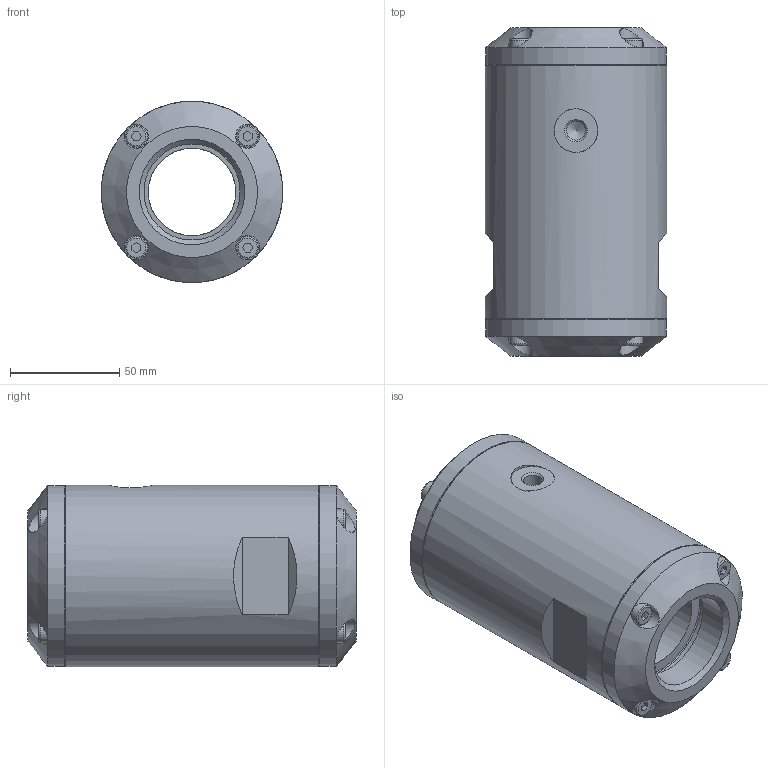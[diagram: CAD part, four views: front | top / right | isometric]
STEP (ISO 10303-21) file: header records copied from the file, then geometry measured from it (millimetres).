
FILE_DESCRIPTION(/* description */ (''),/* implementation_level */ '2;1');
FILE_NAME(/* name */ 'Serie80_QV40_assembly_VEREINFACHT.stp',/* time_stamp */ '2013-10-21T17:30:35+02:00',/* author */ (''),/* organization */ (''),/* preprocessor_version */ 'ST-DEVELOPER v11',/* originating_system */ 'SIEMENS PLM Software NX 7.5',/* authorisation */ '');
FILE_SCHEMA (('AUTOMOTIVE_DESIGN { 1 0 10303 214 1 1 1 1 }'));
Length unit declared in the file: millimetre
Products named in the file (1): memdFD780wkj
Bounding box: 83 x 150 x 83 mm (x, y, z)
Volume: 573639.8 mm3; surface area: 105935.7 mm2
Topology: 27 solids, 27 shells, 302 faces, 602 edges, 384 vertices
Faces by surface type: plane 145, cylinder 97, torus 30, cone 30
Full cylindrical faces by diameter (mm): 4.92 x16, 5 x8, 6 x24, 6.2 x8, 6.5 x8, 8.611 x1, 10 x8, 11 x8, 40 x3, 44.054 x2, 50.7 x2, 78.8 x2, 79.1 x2, 83 x3
Entity records: 7033 total; most frequent: DIRECTION 1238, CARTESIAN_POINT 1224, ORIENTED_EDGE 794, AXIS2_PLACEMENT_3D 542, EDGE_LOOP 518, FACE_BOUND 431, EDGE_CURVE 397, VERTEX_POINT 336
